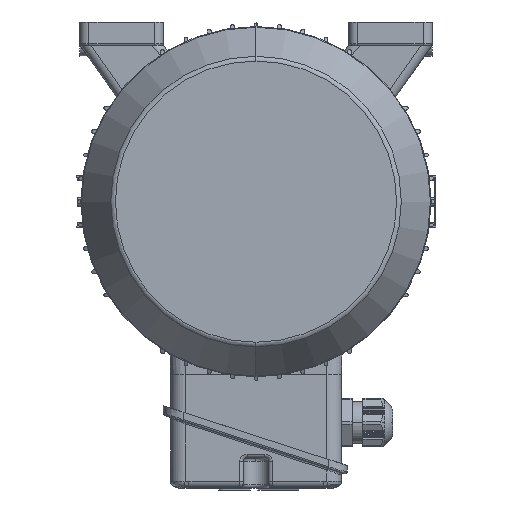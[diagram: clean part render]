
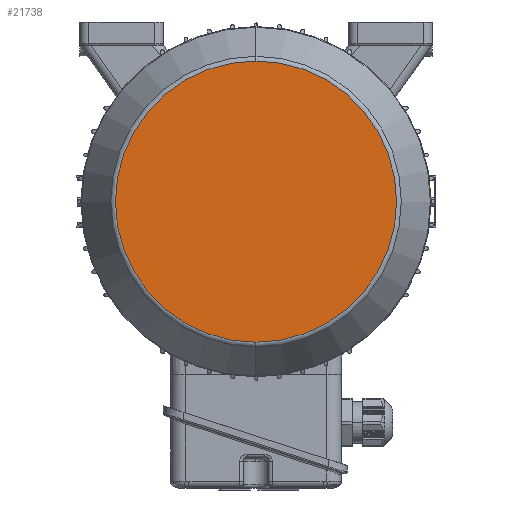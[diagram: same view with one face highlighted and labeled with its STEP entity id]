
A CAD part, left-side view. The second image highlights one B-rep face of the part: STEP entity #21738.
In plain terms, the highlighted planar face has unit normal (-1, 0, 0).
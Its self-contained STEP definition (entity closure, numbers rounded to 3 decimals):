
#9 = EDGE_CURVE ( 'NONE', #36395, #34197, #18036, .T. ) ;
#1654 = DIRECTION ( 'NONE',  ( 0., 1., 0. ) ) ;
#4641 = CARTESIAN_POINT ( 'NONE',  ( -191.5, 0., -78.268 ) ) ;
#7068 = AXIS2_PLACEMENT_3D ( 'NONE', #29689, #43664, #22547 ) ;
#8626 = EDGE_CURVE ( 'NONE', #34197, #36395, #33795, .T. ) ;
#11136 = AXIS2_PLACEMENT_3D ( 'NONE', #18933, #43244, #1654 ) ;
#11801 = ORIENTED_EDGE ( 'NONE', *, *, #8626, .F. ) ;
#18036 = CIRCLE ( 'NONE', #7068, 78.268 ) ;
#18332 = DIRECTION ( 'NONE',  ( 0., 0., -1. ) ) ;
#18603 = AXIS2_PLACEMENT_3D ( 'NONE', #28309, #42459, #18332 ) ;
#18644 = PLANE ( 'NONE',  #11136 ) ;
#18933 = CARTESIAN_POINT ( 'NONE',  ( -191.5, 0., -78.268 ) ) ;
#21738 = ADVANCED_FACE ( 'NONE', ( #30120 ), #18644, .T. ) ;
#22547 = DIRECTION ( 'NONE',  ( 0., 0., -1. ) ) ;
#26215 = CARTESIAN_POINT ( 'NONE',  ( -191.5, 0., 78.268 ) ) ;
#28309 = CARTESIAN_POINT ( 'NONE',  ( -191.5, 0., 0. ) ) ;
#29689 = CARTESIAN_POINT ( 'NONE',  ( -191.5, 0., 0. ) ) ;
#30120 = FACE_OUTER_BOUND ( 'NONE', #42507, .T. ) ;
#33795 = CIRCLE ( 'NONE', #18603, 78.268 ) ;
#34197 = VERTEX_POINT ( 'NONE', #4641 ) ;
#36395 = VERTEX_POINT ( 'NONE', #26215 ) ;
#42459 = DIRECTION ( 'NONE',  ( 1., 0., 0. ) ) ;
#42507 = EDGE_LOOP ( 'NONE', ( #11801, #43748 ) ) ;
#43244 = DIRECTION ( 'NONE',  ( -1., 0., 0. ) ) ;
#43664 = DIRECTION ( 'NONE',  ( 1., 0., 0. ) ) ;
#43748 = ORIENTED_EDGE ( 'NONE', *, *, #9, .F. ) ;
